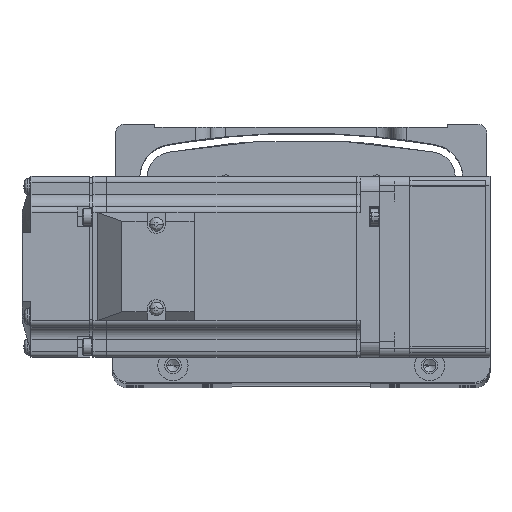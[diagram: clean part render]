
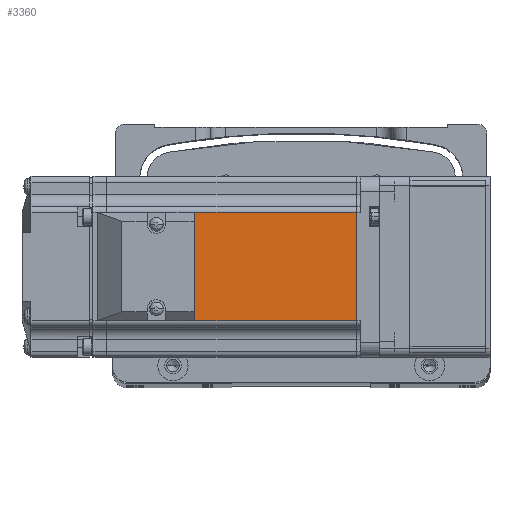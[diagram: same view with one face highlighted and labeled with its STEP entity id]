
A CAD part, top view. The second image highlights one B-rep face of the part: STEP entity #3360.
In plain terms, the highlighted planar face has unit normal (0, 0, 1) as drawn and (0, 1, 0) by its records, which use the part's own axes.
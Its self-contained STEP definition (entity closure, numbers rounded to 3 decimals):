
#3360 = ADVANCED_FACE ( 'NONE', ( #16903 ), #81747, .T. ) ;
#4367 = CARTESIAN_POINT ( 'NONE',  ( -7.75, 30., 0. ) ) ;
#7235 = CARTESIAN_POINT ( 'NONE',  ( -6.5, 30., 18. ) ) ;
#7432 = CARTESIAN_POINT ( 'NONE',  ( -7.75, 30., -18. ) ) ;
#11952 = CARTESIAN_POINT ( 'NONE',  ( -6.5, 30., 25. ) ) ;
#13681 = DIRECTION ( 'NONE',  ( 1., 0., 0. ) ) ;
#13941 = VECTOR ( 'NONE', #42616, 1000. ) ;
#14126 = LINE ( 'NONE', #23992, #63065 ) ;
#16903 = FACE_OUTER_BOUND ( 'NONE', #61050, .T. ) ;
#17754 = EDGE_CURVE ( 'NONE', #30386, #64792, #35337, .T. ) ;
#18382 = DIRECTION ( 'NONE',  ( 0., 0., 1. ) ) ;
#19469 = CARTESIAN_POINT ( 'NONE',  ( -7.75, 30., 18. ) ) ;
#21114 = VERTEX_POINT ( 'NONE', #19469 ) ;
#21585 = ORIENTED_EDGE ( 'NONE', *, *, #47350, .T. ) ;
#22585 = VECTOR ( 'NONE', #13681, 1000. ) ;
#23992 = CARTESIAN_POINT ( 'NONE',  ( -90.45, 30., 0. ) ) ;
#27479 = CARTESIAN_POINT ( 'NONE',  ( -90.45, 30., 18. ) ) ;
#27795 = CARTESIAN_POINT ( 'NONE',  ( -6.5, 30., -18. ) ) ;
#30386 = VERTEX_POINT ( 'NONE', #7432 ) ;
#31893 = AXIS2_PLACEMENT_3D ( 'NONE', #11952, #56584, #18382 ) ;
#33325 = VECTOR ( 'NONE', #34229, 1000. ) ;
#34229 = DIRECTION ( 'NONE',  ( -1., 0., 0. ) ) ;
#35337 = LINE ( 'NONE', #27795, #33325 ) ;
#41527 = LINE ( 'NONE', #7235, #22585 ) ;
#42616 = DIRECTION ( 'NONE',  ( 0., 0., 1. ) ) ;
#46255 = EDGE_CURVE ( 'NONE', #30386, #21114, #66859, .T. ) ;
#47350 = EDGE_CURVE ( 'NONE', #64791, #21114, #41527, .T. ) ;
#49494 = EDGE_CURVE ( 'NONE', #64792, #64791, #14126, .T. ) ;
#56584 = DIRECTION ( 'NONE',  ( 0., 1., 0. ) ) ;
#60637 = ORIENTED_EDGE ( 'NONE', *, *, #49494, .T. ) ;
#61050 = EDGE_LOOP ( 'NONE', ( #64681, #74416, #60637, #21585 ) ) ;
#63065 = VECTOR ( 'NONE', #81519, 1000. ) ;
#64681 = ORIENTED_EDGE ( 'NONE', *, *, #46255, .F. ) ;
#64791 = VERTEX_POINT ( 'NONE', #27479 ) ;
#64792 = VERTEX_POINT ( 'NONE', #72133 ) ;
#66859 = LINE ( 'NONE', #4367, #13941 ) ;
#72133 = CARTESIAN_POINT ( 'NONE',  ( -90.45, 30., -18. ) ) ;
#74416 = ORIENTED_EDGE ( 'NONE', *, *, #17754, .T. ) ;
#81519 = DIRECTION ( 'NONE',  ( 0., 0., 1. ) ) ;
#81747 = PLANE ( 'NONE',  #31893 ) ;
